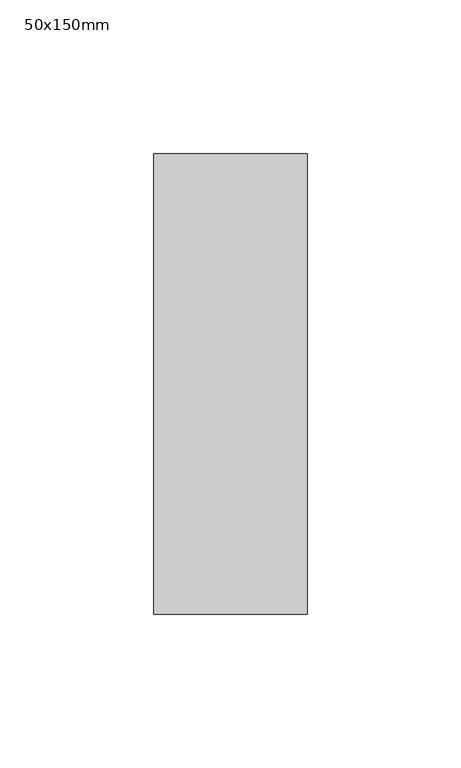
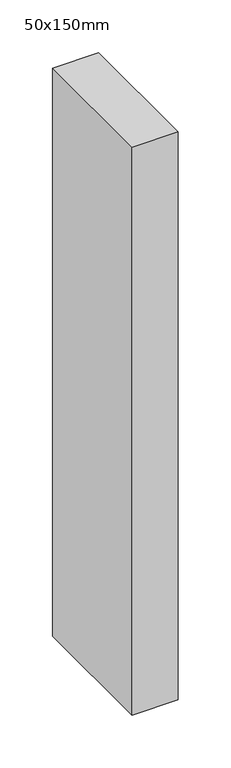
"""IFC4 building model written with IfcOpenShell, lengths in millimetres: member geometry, 長方形マリオン : 50x150mm."""

from ifc_helpers import new_model, si_unit, frame, origin, place, context, project, spatial, polyline, outline, extrude, source, transform, mapped, element, save


def member_50x150mm_37d6beb1(model_context):
    return source(origin(), model_context, "Body", "SweptSolid", [
        extrude(outline(polyline([(25.0, 75.0), (25.0, -75.0), (-25.0, -75.0), (-25.0, 75.0), (25.0, 75.0)])), frame((0.0, 0.0, -654.1666667), z_axis=(0.0, 0.0, 1.0), x_axis=(1.0, 0.0, 0.0)), (0.0, 0.0, 1.0), 654.1666667),
    ])


if __name__ == "__main__":
    model = new_model("IFC4")
    model_context = context("Model", 3, world=origin())
    ifc_project = project(units=[si_unit("LENGTHUNIT", "METRE", prefix="MILLI")], contexts=[model_context])
    site = spatial("IfcSite", under=ifc_project)
    building = spatial("IfcBuilding", under=site)
    placement = place(None, origin())
    member_50x150mm_shape = member_50x150mm_37d6beb1(model_context)
    element("IfcMember", 1, ObjectType="長方形マリオン : 50x150mm", at=placement, inside=building, context=model_context, shape_type="MappedRepresentation", body=[
        mapped(member_50x150mm_shape, transform((0.0, 0.0, 0.0), x_axis=(1.0, 0.0, 0.0), y_axis=(0.0, 1.0, 0.0), z_axis=(0.0, 0.0, 1.0))),
    ])
    save(model, "model.ifc")
